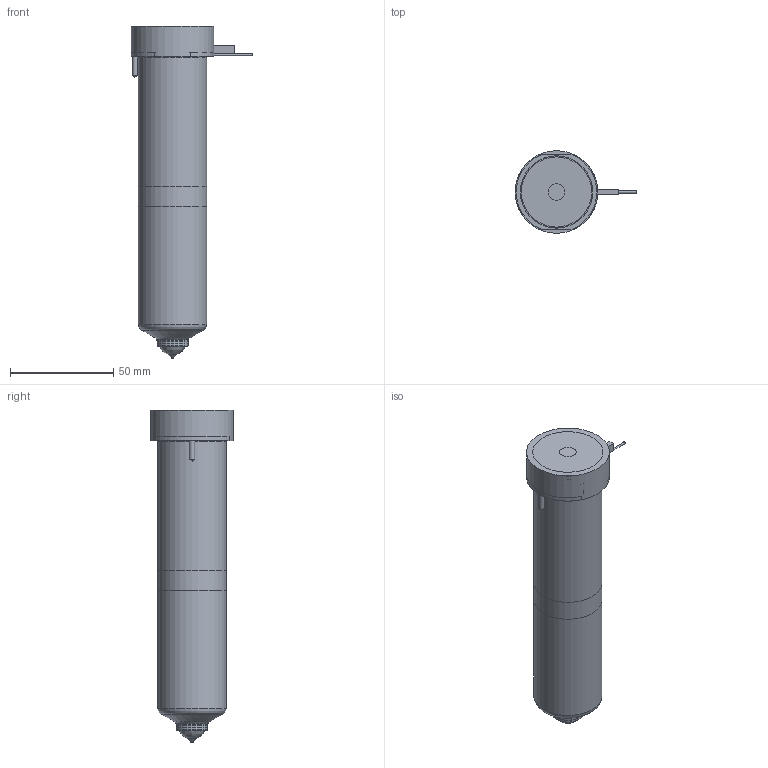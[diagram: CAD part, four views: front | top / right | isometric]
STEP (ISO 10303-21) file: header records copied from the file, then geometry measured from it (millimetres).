
FILE_DESCRIPTION(/* description */ (''),/* implementation_level */ '2;1');
FILE_NAME(/* name */ 'BXOT19145_250C_b',/* time_stamp */ '2007-01-18T08:46:48+13:00',/* author */ (''),/* organization */ (''),/* preprocessor_version */ 'ST-DEVELOPER v9',/* originating_system */ 'UGS - NX 4.0',/* authorisation */ '');
FILE_SCHEMA (('CONFIG_CONTROL_DESIGN'));
Length unit declared in the file: millimetre
Products named in the file (1): BXOT19145_250C_b
Bounding box: 58.85 x 40 x 160.68 mm (x, y, z)
Volume: 246291.1 mm3; surface area: 39442.8 mm2
Topology: 6 solids, 6 shells, 83 faces, 165 edges, 105 vertices
Faces by surface type: plane 36, cylinder 25, cone 11, torus 8, bspline 3
Full cylindrical faces by diameter (mm): 1 x3, 1.2 x1, 2.5 x2, 8 x1, 10.8 x1, 11 x1, 14.61 x1, 15.01 x2, 18.3 x1, 28.6 x1, 33 x2, 40 x1
Entity records: 2086 total; most frequent: CARTESIAN_POINT 457, DIRECTION 342, ORIENTED_EDGE 238, AXIS2_PLACEMENT_3D 152, EDGE_LOOP 130, EDGE_CURVE 119, VERTEX_POINT 96, ADVANCED_FACE 83
